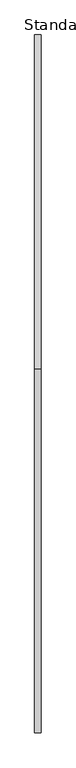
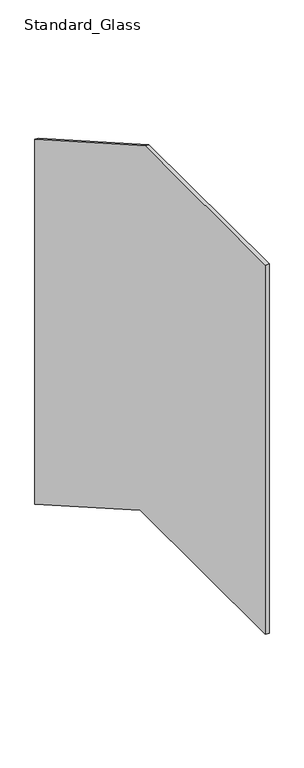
"""IFC4 building model written with IfcOpenShell, lengths in millimetres: railing geometry, Baluster-Landing-Panel-VIVA-VISIO-Lower : Standard_Glass."""

from ifc_helpers import new_model, si_unit, frame, origin, place, context, project, spatial, polyline, outline, extrude, source, transform, mapped, element, save


def standard_glass_72de46f0(model_context):
    return source(origin(), model_context, "Body", "SweptSolid", [
        extrude(outline(polyline([(-485.5188066, 1087.12), (5.0108793, 806.872756), (5.0108793, -182.88), (-463.2739542, 84.6584136), (-1019.1089961, 84.6584136), (-1019.1089961, 1087.12), (-485.5188066, 1087.12)])), frame((33.3375, 0.0, 0.0), z_axis=(1.0, 0.0, 0.0), x_axis=(0.0, 1.0, 0.0)), (0.0, 0.0, 1.0), 9.525),
    ])


if __name__ == "__main__":
    model = new_model("IFC4")
    model_context = context("Model", 3, world=origin())
    ifc_project = project(units=[si_unit("LENGTHUNIT", "METRE", prefix="MILLI")], contexts=[model_context])
    site = spatial("IfcSite", under=ifc_project)
    building = spatial("IfcBuilding", under=site)
    placement = place(None, origin())
    standard_glass_shape = standard_glass_72de46f0(model_context)
    element("IfcRailing", 1, ObjectType="Baluster-Landing-Panel-VIVA-VISIO-Lower : Standard_Glass", at=placement, inside=building, context=model_context, shape_type="MappedRepresentation", body=[
        mapped(standard_glass_shape, transform((0.0, 0.0, 0.0), x_axis=(1.0, 0.0, 0.0), y_axis=(0.0, 1.0, 0.0), z_axis=(0.0, 0.0, 1.0))),
    ])
    save(model, "model.ifc")
